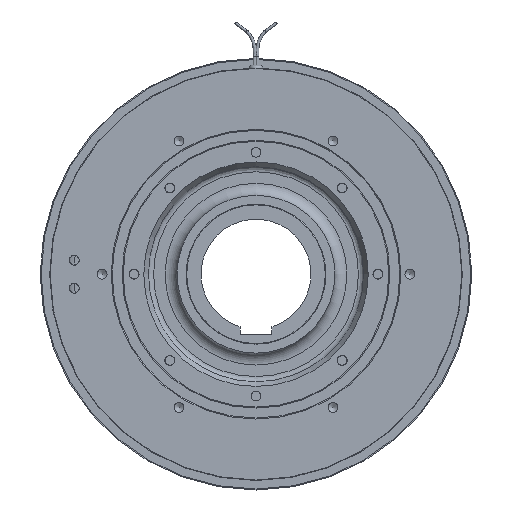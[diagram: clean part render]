
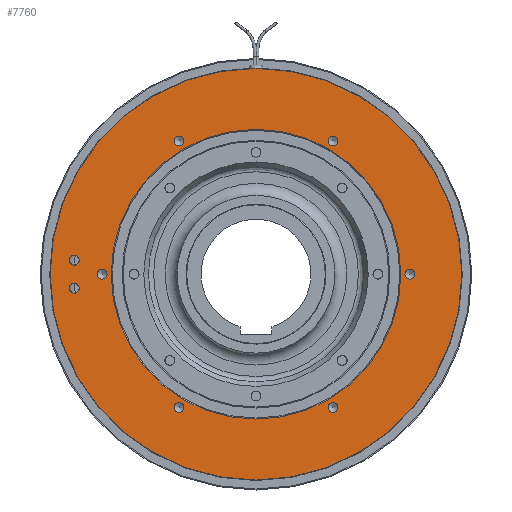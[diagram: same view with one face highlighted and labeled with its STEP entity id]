
A CAD part, left-side view. The second image highlights one B-rep face of the part: STEP entity #7760.
In plain terms, the highlighted planar face has unit normal (-1, 0, 0).
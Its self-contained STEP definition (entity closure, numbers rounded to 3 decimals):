
#1250=FACE_BOUND('',#2164,.T.);
#1251=FACE_BOUND('',#2165,.T.);
#1252=FACE_BOUND('',#2166,.T.);
#1253=FACE_BOUND('',#2167,.T.);
#1254=FACE_BOUND('',#2168,.T.);
#1255=FACE_BOUND('',#2169,.T.);
#1256=FACE_BOUND('',#2170,.T.);
#1257=FACE_BOUND('',#2171,.T.);
#1258=FACE_BOUND('',#2172,.T.);
#1653=FACE_OUTER_BOUND('',#2163,.T.);
#2163=EDGE_LOOP('',(#6972,#6973,#6974));
#2164=EDGE_LOOP('',(#6975,#6976));
#2165=EDGE_LOOP('',(#6977,#6978));
#2166=EDGE_LOOP('',(#6979,#6980));
#2167=EDGE_LOOP('',(#6981,#6982));
#2168=EDGE_LOOP('',(#6983,#6984));
#2169=EDGE_LOOP('',(#6985,#6986));
#2170=EDGE_LOOP('',(#6987,#6988));
#2171=EDGE_LOOP('',(#6989,#6990));
#2172=EDGE_LOOP('',(#6991));
#2781=CIRCLE('',#8739,103.);
#2782=CIRCLE('',#8740,103.);
#2820=CIRCLE('',#8802,2.459);
#2821=CIRCLE('',#8803,2.459);
#2822=CIRCLE('',#8805,2.459);
#2823=CIRCLE('',#8806,2.459);
#2826=CIRCLE('',#8811,2.459);
#2827=CIRCLE('',#8812,2.459);
#2830=CIRCLE('',#8817,2.459);
#2831=CIRCLE('',#8818,2.459);
#2834=CIRCLE('',#8823,2.459);
#2835=CIRCLE('',#8824,2.459);
#2838=CIRCLE('',#8829,2.459);
#2839=CIRCLE('',#8830,2.459);
#2842=CIRCLE('',#8835,2.459);
#2843=CIRCLE('',#8836,2.459);
#2846=CIRCLE('',#8841,2.459);
#2847=CIRCLE('',#8842,2.459);
#2850=CIRCLE('',#8846,72.5);
#2851=CIRCLE('',#8848,103.);
#3552=VERTEX_POINT('',#13624);
#3553=VERTEX_POINT('',#13626);
#3554=VERTEX_POINT('',#13628);
#3588=VERTEX_POINT('',#13999);
#3589=VERTEX_POINT('',#14000);
#3590=VERTEX_POINT('',#14005);
#3591=VERTEX_POINT('',#14006);
#3595=VERTEX_POINT('',#14018);
#3596=VERTEX_POINT('',#14019);
#3600=VERTEX_POINT('',#14031);
#3601=VERTEX_POINT('',#14032);
#3605=VERTEX_POINT('',#14044);
#3606=VERTEX_POINT('',#14045);
#3610=VERTEX_POINT('',#14057);
#3611=VERTEX_POINT('',#14058);
#3615=VERTEX_POINT('',#14070);
#3616=VERTEX_POINT('',#14071);
#3620=VERTEX_POINT('',#14083);
#3621=VERTEX_POINT('',#14084);
#3624=VERTEX_POINT('',#14093);
#4645=EDGE_CURVE('',#3553,#3552,#2781,.T.);
#4646=EDGE_CURVE('',#3554,#3553,#2782,.T.);
#4707=EDGE_CURVE('',#3588,#3589,#2820,.T.);
#4708=EDGE_CURVE('',#3589,#3588,#2821,.T.);
#4710=EDGE_CURVE('',#3590,#3591,#2822,.T.);
#4711=EDGE_CURVE('',#3591,#3590,#2823,.T.);
#4716=EDGE_CURVE('',#3595,#3596,#2826,.T.);
#4717=EDGE_CURVE('',#3596,#3595,#2827,.T.);
#4722=EDGE_CURVE('',#3600,#3601,#2830,.T.);
#4723=EDGE_CURVE('',#3601,#3600,#2831,.T.);
#4728=EDGE_CURVE('',#3605,#3606,#2834,.T.);
#4729=EDGE_CURVE('',#3606,#3605,#2835,.T.);
#4734=EDGE_CURVE('',#3610,#3611,#2838,.T.);
#4735=EDGE_CURVE('',#3611,#3610,#2839,.T.);
#4740=EDGE_CURVE('',#3615,#3616,#2842,.T.);
#4741=EDGE_CURVE('',#3616,#3615,#2843,.T.);
#4746=EDGE_CURVE('',#3620,#3621,#2846,.T.);
#4747=EDGE_CURVE('',#3621,#3620,#2847,.T.);
#4752=EDGE_CURVE('',#3624,#3624,#2850,.T.);
#4753=EDGE_CURVE('',#3552,#3554,#2851,.T.);
#6972=ORIENTED_EDGE('',*,*,#4645,.T.);
#6973=ORIENTED_EDGE('',*,*,#4753,.T.);
#6974=ORIENTED_EDGE('',*,*,#4646,.T.);
#6975=ORIENTED_EDGE('',*,*,#4707,.T.);
#6976=ORIENTED_EDGE('',*,*,#4708,.T.);
#6977=ORIENTED_EDGE('',*,*,#4710,.T.);
#6978=ORIENTED_EDGE('',*,*,#4711,.T.);
#6979=ORIENTED_EDGE('',*,*,#4716,.T.);
#6980=ORIENTED_EDGE('',*,*,#4717,.T.);
#6981=ORIENTED_EDGE('',*,*,#4722,.T.);
#6982=ORIENTED_EDGE('',*,*,#4723,.T.);
#6983=ORIENTED_EDGE('',*,*,#4728,.T.);
#6984=ORIENTED_EDGE('',*,*,#4729,.T.);
#6985=ORIENTED_EDGE('',*,*,#4734,.T.);
#6986=ORIENTED_EDGE('',*,*,#4735,.T.);
#6987=ORIENTED_EDGE('',*,*,#4740,.T.);
#6988=ORIENTED_EDGE('',*,*,#4741,.T.);
#6989=ORIENTED_EDGE('',*,*,#4746,.T.);
#6990=ORIENTED_EDGE('',*,*,#4747,.T.);
#6991=ORIENTED_EDGE('',*,*,#4752,.F.);
#7150=PLANE('',#8847);
#7760=ADVANCED_FACE('',(#1653,#1250,#1251,#1252,#1253,#1254,#1255,#1256,
#1257,#1258),#7150,.T.);
#8739=AXIS2_PLACEMENT_3D('',#13627,#11119,#11120);
#8740=AXIS2_PLACEMENT_3D('',#13629,#11121,#11122);
#8802=AXIS2_PLACEMENT_3D('',#14001,#11259,#11260);
#8803=AXIS2_PLACEMENT_3D('',#14002,#11261,#11262);
#8805=AXIS2_PLACEMENT_3D('',#14007,#11266,#11267);
#8806=AXIS2_PLACEMENT_3D('',#14008,#11268,#11269);
#8811=AXIS2_PLACEMENT_3D('',#14020,#11280,#11281);
#8812=AXIS2_PLACEMENT_3D('',#14021,#11282,#11283);
#8817=AXIS2_PLACEMENT_3D('',#14033,#11294,#11295);
#8818=AXIS2_PLACEMENT_3D('',#14034,#11296,#11297);
#8823=AXIS2_PLACEMENT_3D('',#14046,#11308,#11309);
#8824=AXIS2_PLACEMENT_3D('',#14047,#11310,#11311);
#8829=AXIS2_PLACEMENT_3D('',#14059,#11322,#11323);
#8830=AXIS2_PLACEMENT_3D('',#14060,#11324,#11325);
#8835=AXIS2_PLACEMENT_3D('',#14072,#11336,#11337);
#8836=AXIS2_PLACEMENT_3D('',#14073,#11338,#11339);
#8841=AXIS2_PLACEMENT_3D('',#14085,#11350,#11351);
#8842=AXIS2_PLACEMENT_3D('',#14086,#11352,#11353);
#8846=AXIS2_PLACEMENT_3D('',#14095,#11362,#11363);
#8847=AXIS2_PLACEMENT_3D('',#14096,#11364,#11365);
#8848=AXIS2_PLACEMENT_3D('',#14097,#11366,#11367);
#11119=DIRECTION('center_axis',(-1.,0.,0.));
#11120=DIRECTION('ref_axis',(0.,1.,0.));
#11121=DIRECTION('center_axis',(-1.,0.,0.));
#11122=DIRECTION('ref_axis',(0.,1.,0.));
#11259=DIRECTION('center_axis',(1.,0.,0.));
#11260=DIRECTION('ref_axis',(0.,0.,
1.));
#11261=DIRECTION('center_axis',(1.,0.,0.));
#11262=DIRECTION('ref_axis',(0.,0.,
1.));
#11266=DIRECTION('center_axis',(1.,0.,0.));
#11267=DIRECTION('ref_axis',(0.,0.,
1.));
#11268=DIRECTION('center_axis',(1.,0.,0.));
#11269=DIRECTION('ref_axis',(0.,0.,
1.));
#11280=DIRECTION('center_axis',(1.,0.,0.));
#11281=DIRECTION('ref_axis',(0.,0.,
1.));
#11282=DIRECTION('center_axis',(1.,0.,0.));
#11283=DIRECTION('ref_axis',(0.,0.,
1.));
#11294=DIRECTION('center_axis',(1.,0.,0.));
#11295=DIRECTION('ref_axis',(0.,0.,
1.));
#11296=DIRECTION('center_axis',(1.,0.,0.));
#11297=DIRECTION('ref_axis',(0.,0.,
1.));
#11308=DIRECTION('center_axis',(1.,0.,0.));
#11309=DIRECTION('ref_axis',(0.,0.,
1.));
#11310=DIRECTION('center_axis',(1.,0.,0.));
#11311=DIRECTION('ref_axis',(0.,0.,
1.));
#11322=DIRECTION('center_axis',(1.,0.,0.));
#11323=DIRECTION('ref_axis',(0.,0.,
1.));
#11324=DIRECTION('center_axis',(1.,0.,0.));
#11325=DIRECTION('ref_axis',(0.,0.,
1.));
#11336=DIRECTION('center_axis',(1.,0.,0.));
#11337=DIRECTION('ref_axis',(0.,0.,
1.));
#11338=DIRECTION('center_axis',(1.,0.,0.));
#11339=DIRECTION('ref_axis',(0.,0.,
1.));
#11350=DIRECTION('center_axis',(1.,0.,0.));
#11351=DIRECTION('ref_axis',(0.,0.,
1.));
#11352=DIRECTION('center_axis',(1.,0.,0.));
#11353=DIRECTION('ref_axis',(0.,0.,
1.));
#11362=DIRECTION('center_axis',(-1.,0.,0.));
#11363=DIRECTION('ref_axis',(0.,-1.,0.));
#11364=DIRECTION('center_axis',(-1.,0.,0.));
#11365=DIRECTION('ref_axis',(0.,0.,
1.));
#11366=DIRECTION('center_axis',(-1.,0.,0.));
#11367=DIRECTION('ref_axis',(0.,1.,0.));
#13624=CARTESIAN_POINT('',(-18.,-103.,0.));
#13626=CARTESIAN_POINT('',(-18.,103.,0.));
#13627=CARTESIAN_POINT('Origin',(-18.,0.,
0.));
#13628=CARTESIAN_POINT('',(-18.,0.,103.));
#13629=CARTESIAN_POINT('Origin',(-18.,0.,
0.));
#13999=CARTESIAN_POINT('',(-18.,91.,9.459));
#14000=CARTESIAN_POINT('',(-18.,91.,4.542));
#14001=CARTESIAN_POINT('Origin',(-18.,91.,7.));
#14002=CARTESIAN_POINT('Origin',(-18.,91.,7.));
#14005=CARTESIAN_POINT('',(-18.,91.,-4.541));
#14006=CARTESIAN_POINT('',(-18.,91.,-9.458));
#14007=CARTESIAN_POINT('Origin',(-18.,91.,-7.));
#14008=CARTESIAN_POINT('Origin',(-18.,91.,-7.));
#14018=CARTESIAN_POINT('',(-18.,38.5,69.142));
#14019=CARTESIAN_POINT('',(-18.,38.5,64.225));
#14020=CARTESIAN_POINT('Origin',(-18.,38.5,66.684));
#14021=CARTESIAN_POINT('Origin',(-18.,38.5,66.684));
#14031=CARTESIAN_POINT('',(-18.,-38.5,69.142));
#14032=CARTESIAN_POINT('',(-18.,-38.5,64.225));
#14033=CARTESIAN_POINT('Origin',(-18.,-38.5,66.684));
#14034=CARTESIAN_POINT('Origin',(-18.,-38.5,66.684));
#14044=CARTESIAN_POINT('',(-18.,-77.,2.458));
#14045=CARTESIAN_POINT('',(-18.,-77.,-2.459));
#14046=CARTESIAN_POINT('Origin',(-18.,-77.,0.));
#14047=CARTESIAN_POINT('Origin',(-18.,-77.,0.));
#14057=CARTESIAN_POINT('',(-18.,-38.5,-64.225));
#14058=CARTESIAN_POINT('',(-18.,-38.5,-69.142));
#14059=CARTESIAN_POINT('Origin',(-18.,-38.5,-66.684));
#14060=CARTESIAN_POINT('Origin',(-18.,-38.5,-66.684));
#14070=CARTESIAN_POINT('',(-18.,38.5,-64.225));
#14071=CARTESIAN_POINT('',(-18.,38.5,-69.142));
#14072=CARTESIAN_POINT('Origin',(-18.,38.5,-66.684));
#14073=CARTESIAN_POINT('Origin',(-18.,38.5,-66.684));
#14083=CARTESIAN_POINT('',(-18.,77.,2.459));
#14084=CARTESIAN_POINT('',(-18.,77.,-2.458));
#14085=CARTESIAN_POINT('Origin',(-18.,77.,0.));
#14086=CARTESIAN_POINT('Origin',(-18.,77.,0.));
#14093=CARTESIAN_POINT('',(-18.,72.5,0.));
#14095=CARTESIAN_POINT('Origin',(-18.,0.,0.));
#14096=CARTESIAN_POINT('Origin',(-18.,87.5,0.));
#14097=CARTESIAN_POINT('Origin',(-18.,0.,
0.));
